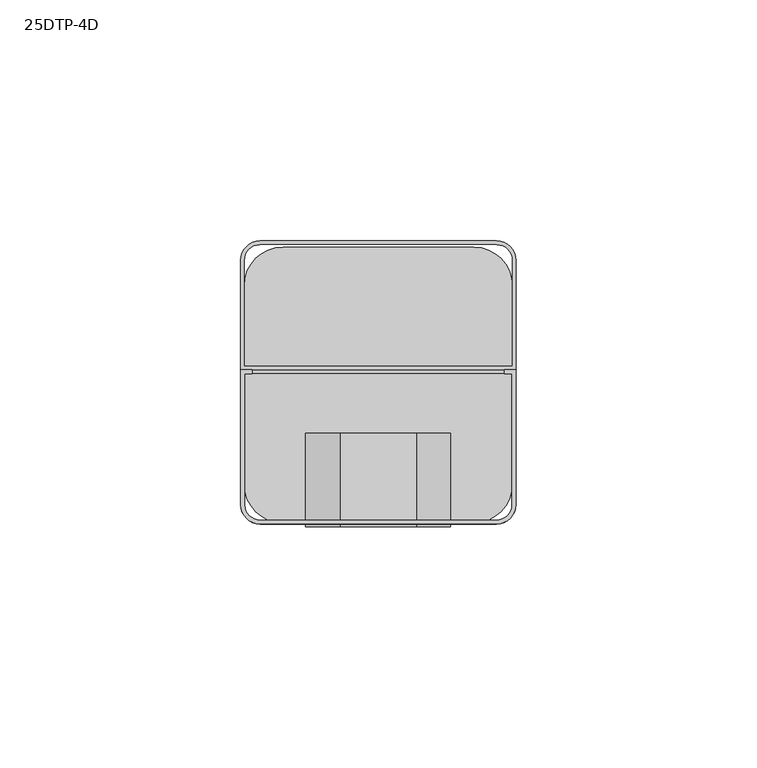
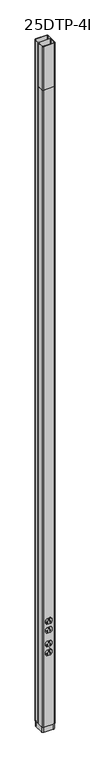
"""IFC4 building model written with IfcOpenShell, lengths in millimetres: proxy geometry, Vertical_Drop_Poles-Wiremold-Steel_Tele-Power_Pole : 25DTP-4D."""

from ifc_helpers import new_model, si_unit, point, frame, frame_2d, origin, origin_with_axes, place, context, project, spatial, polyline, circle_curve, trimmed, segment, composite_curve, outline, extrude, source, transform, mapped, element, save


def proxy_25dtp_4d_030f9c97(model_context):
    return source(origin(), model_context, "Body", "SweptSolid", [
        extrude(outline(composite_curve([segment(polyline([(28.575, 31.25), (28.575, 3.25)]), True, "CONTINUOUS"), segment(trimmed(circle_curve(frame_2d((24.575, 3.25)), 4.0), [point((28.575, 3.25))], [point((24.575, -0.75))], False, "CARTESIAN"), True, "CONTINUOUS"), segment(polyline([(24.575, -0.75), (-24.575, -0.75)]), True, "CONTINUOUS"), segment(trimmed(circle_curve(frame_2d((-24.575, 3.25)), 4.0), [point((-24.575, -0.75))], [point((-28.575, 3.25))], False, "CARTESIAN"), True, "CONTINUOUS"), segment(polyline([(-28.575, 3.25), (-28.575, 31.25), (-26.1875, 31.25), (-26.1875, 30.45), (-27.775, 30.45), (-27.775, 3.25)]), True, "CONTINUOUS"), segment(trimmed(circle_curve(frame_2d((-24.575, 3.25)), 3.2), [point((-27.775, 3.25))], [point((-24.575, 0.05))], True, "CARTESIAN"), True, "CONTINUOUS"), segment(polyline([(-24.575, 0.05), (24.575, 0.05)]), True, "CONTINUOUS"), segment(trimmed(circle_curve(frame_2d((24.575, 3.25)), 3.2), [point((24.575, 0.05))], [point((27.775, 3.25))], True, "CARTESIAN"), True, "CONTINUOUS"), segment(polyline([(27.775, 3.25), (27.775, 30.45), (26.1875, 30.45), (26.1875, 31.25), (28.575, 31.25)]), True, "CONTINUOUS")], self_intersect=False)), frame((0.0, 0.0, 2971.8), z_axis=(0.0, 0.0, 1.0), x_axis=(1.0, 0.0, 0.0)), (0.0, 0.0, 1.0), 203.2),
        extrude(outline(composite_curve([segment(trimmed(circle_curve(frame_2d((382.9265865, -1.3686678)), 13.5147302), [point((394.7420503, -7.9293651))], [point((382.9265865, -14.8833981))], False, "CARTESIAN"), True, "CONTINUOUS"), segment(polyline([(382.9265865, -14.8833981), (381.0801333, -14.8833981)]), True, "CONTINUOUS"), segment(trimmed(circle_curve(frame_2d((381.0801333, -0.8712751)), 14.0121229), [point((381.0801333, -14.8833981))], [point((369.2960251, -8.4524614))], False, "CARTESIAN"), True, "CONTINUOUS"), segment(polyline([(369.2960251, -8.4524614), (369.2960251, 8.3803404)]), True, "CONTINUOUS"), segment(trimmed(circle_curve(frame_2d((380.7601905, 0.7900089)), 13.7491898), [point((369.2960251, 8.3803404))], [point((380.7601905, 14.5391986))], False, "CARTESIAN"), True, "CONTINUOUS"), segment(polyline([(380.7601905, 14.5391986), (382.9712657, 14.5391986)]), True, "CONTINUOUS"), segment(trimmed(circle_curve(frame_2d((382.9712657, 0.7346993)), 13.8044993), [point((382.9712657, 14.5391986))], [point((394.7420503, 7.9466915))], False, "CARTESIAN"), True, "CONTINUOUS"), segment(polyline([(394.7420503, 7.9466915), (394.7420503, -7.9293651)]), True, "CONTINUOUS")], self_intersect=False), holes=[polyline([(381.1730138, -5.605934), (373.5125012, -5.605934), (373.5125012, -7.1952895), (376.6875012, -7.1952895), (376.6875012, -11.9577895), (378.2750012, -11.9577895), (378.2750012, -7.1952895), (381.1730138, -7.1952895), (381.1730138, -5.605934)]), polyline([(374.3062512, 5.29348), (380.3792638, 5.29348), (380.3792638, 6.8797105), (374.3062512, 6.8797105), (374.3062512, 5.29348)]), composite_curve([segment(polyline([(391.6167638, 2.240599), (388.4417638, 2.240599)]), True, "CONTINUOUS"), segment(trimmed(circle_curve(frame_2d((388.4417638, -0.140651)), 2.38125), [point((388.4417638, 2.240599))], [point((388.4417638, -2.521901))], True, "CARTESIAN"), True, "CONTINUOUS"), segment(polyline([(388.4417638, -2.521901), (391.6167638, -2.521901), (391.6167638, 2.240599)]), True, "CONTINUOUS")], self_intersect=False)]), frame((0.0, -0.8603814, 0.0), z_axis=(0.0, 1.0, 0.0), x_axis=(0.0, 0.0, 1.0)), (0.0, 0.0, 1.0), 19.3625),
        extrude(outline(composite_curve([segment(polyline([(353.4960251, 8.732199), (353.4960251, -8.7339979)]), True, "CONTINUOUS"), segment(trimmed(circle_curve(frame_2d((342.2124064, -1.5966371)), 13.3514783), [point((353.4960251, -8.7339979))], [point((342.2124064, -14.9481154))], False, "CARTESIAN"), True, "CONTINUOUS"), segment(polyline([(342.2124064, -14.9481154), (340.1003553, -14.9481154)]), True, "CONTINUOUS"), segment(trimmed(circle_curve(frame_2d((340.1003553, -1.1640637)), 13.7840517), [point((340.1003553, -14.9481154))], [point((328.05, -7.8565235))], False, "CARTESIAN"), True, "CONTINUOUS"), segment(polyline([(328.05, -7.8565235), (328.05, 7.778786)]), True, "CONTINUOUS"), segment(trimmed(circle_curve(frame_2d((340.0235306, 0.6795107)), 13.919955), [point((328.05, 7.778786))], [point((340.0235306, 14.5994656))], False, "CARTESIAN"), True, "CONTINUOUS"), segment(polyline([(340.0235306, 14.5994656), (342.2682468, 14.5994656)]), True, "CONTINUOUS"), segment(trimmed(circle_curve(frame_2d((342.2682468, 0.9229247)), 13.6765409), [point((342.2682468, 14.5994656))], [point((353.4960251, 8.732199))], False, "CARTESIAN"), True, "CONTINUOUS")], self_intersect=False), holes=[polyline([(333.4602261, 5.29348), (339.5332386, 5.29348), (339.5332386, 6.8797105), (333.4602261, 6.8797105), (333.4602261, 5.29348)]), composite_curve([segment(polyline([(350.4937512, 2.240599), (347.5957386, 2.240599)]), True, "CONTINUOUS"), segment(trimmed(circle_curve(frame_2d((347.5957386, -0.140651)), 2.38125), [point((347.5957386, 2.240599))], [point((347.5957386, -2.521901))], True, "CARTESIAN"), True, "CONTINUOUS"), segment(polyline([(347.5957386, -2.521901), (350.4937512, -2.521901), (350.4937512, 2.240599)]), True, "CONTINUOUS")], self_intersect=False), polyline([(340.3269886, -5.605934), (332.6664761, -5.605934), (332.6664761, -7.1952895), (335.6049004, -7.1952895), (335.6049004, -11.9577895), (337.1924004, -11.9577895), (337.1924004, -7.1952895), (340.3269886, -7.1952895), (340.3269886, -5.605934)])]), frame((0.0, -0.8603814, 0.0), z_axis=(0.0, 1.0, 0.0), x_axis=(0.0, 0.0, 1.0)), (0.0, 0.0, 1.0), 19.3625),
        extrude(outline(composite_curve([segment(trimmed(circle_curve(frame_2d((488.7029331, -1.1591271)), 13.933707), [point((500.85, -7.9853234))], [point((488.7029331, -15.092834))], False, "CARTESIAN"), True, "CONTINUOUS"), segment(polyline([(488.7029331, -15.092834), (486.7854081, -15.092834)]), True, "CONTINUOUS"), segment(trimmed(circle_curve(frame_2d((486.7854081, -0.9909304)), 14.1019036), [point((486.7854081, -15.092834))], [point((474.85, -8.5015708))], False, "CARTESIAN"), True, "CONTINUOUS"), segment(polyline([(474.85, -8.5015708), (474.85, 8.5041234)]), True, "CONTINUOUS"), segment(trimmed(circle_curve(frame_2d((486.6576313, 0.982166)), 14.0), [point((474.85, 8.5041234))], [point((486.6576313, 14.982166))], False, "CARTESIAN"), True, "CONTINUOUS"), segment(polyline([(486.6576313, 14.982166), (488.7451343, 14.982166)]), True, "CONTINUOUS"), segment(trimmed(circle_curve(frame_2d((488.7451343, 0.9958893)), 13.9862766), [point((488.7451343, 14.982166))], [point((500.85, 8.0021838))], False, "CARTESIAN"), True, "CONTINUOUS"), segment(polyline([(500.85, 8.0021838), (500.85, -7.9853234)]), True, "CONTINUOUS")], self_intersect=False), holes=[polyline([(486.9892021, -5.530934), (479.0517021, -5.530934), (479.0517021, -7.1202895), (486.9892021, -7.1202895), (486.9892021, -5.530934)]), polyline([(479.8454521, 5.29348), (486.1954521, 5.29348), (486.1954521, 6.8797105), (479.8454521, 6.8797105), (479.8454521, 5.29348)]), composite_curve([segment(polyline([(497.4329521, 2.240599), (494.2579521, 2.240599)]), True, "CONTINUOUS"), segment(trimmed(circle_curve(frame_2d((494.2579521, -0.140651)), 2.38125), [point((494.2579521, 2.240599))], [point((494.2579521, -2.521901))], True, "CARTESIAN"), True, "CONTINUOUS"), segment(polyline([(494.2579521, -2.521901), (497.4329521, -2.521901), (497.4329521, 2.240599)]), True, "CONTINUOUS")], self_intersect=False)]), frame((0.0, -0.8603814, 0.0), z_axis=(0.0, 1.0, 0.0), x_axis=(0.0, 0.0, 1.0)), (0.0, 0.0, 1.0), 19.3625),
        extrude(outline(composite_curve([segment(polyline([(459.05, 8.7098868), (459.05, -8.7111214)]), True, "CONTINUOUS"), segment(trimmed(circle_curve(frame_2d((447.3453879, -1.1683429)), 13.9244911), [point((459.05, -8.7111214))], [point((447.3453879, -15.092834))], False, "CARTESIAN"), True, "CONTINUOUS"), segment(polyline([(447.3453879, -15.092834), (445.4207127, -15.092834)]), True, "CONTINUOUS"), segment(trimmed(circle_curve(frame_2d((445.4207127, -0.9820385)), 14.1107955), [point((445.4207127, -15.092834))], [point((433.05, -7.7702649))], False, "CARTESIAN"), True, "CONTINUOUS"), segment(polyline([(433.05, -7.7702649), (433.05, 7.7817126)]), True, "CONTINUOUS"), segment(trimmed(circle_curve(frame_2d((445.293109, 0.9733088)), 14.0088572), [point((433.05, 7.7817126))], [point((445.293109, 14.982166))], False, "CARTESIAN"), True, "CONTINUOUS"), segment(polyline([(445.293109, 14.982166), (447.3875692, 14.982166)]), True, "CONTINUOUS"), segment(trimmed(circle_curve(frame_2d((447.3875692, 1.0036923)), 13.9784736), [point((447.3875692, 14.982166))], [point((459.05, 8.7098868))], False, "CARTESIAN"), True, "CONTINUOUS")], self_intersect=False), holes=[polyline([(445.5892021, -5.6947448), (437.6517021, -5.6947448), (437.6517021, -7.2841003), (445.5892021, -7.2841003), (445.5892021, -5.6947448)]), polyline([(438.4454521, 5.29348), (444.7954521, 5.29348), (444.7954521, 6.8797105), (438.4454521, 6.8797105), (438.4454521, 5.29348)]), composite_curve([segment(polyline([(456.0329521, 2.240599), (452.8579521, 2.240599)]), True, "CONTINUOUS"), segment(trimmed(circle_curve(frame_2d((452.8579521, -0.140651)), 2.38125), [point((452.8579521, 2.240599))], [point((452.8579521, -2.521901))], True, "CARTESIAN"), True, "CONTINUOUS"), segment(polyline([(452.8579521, -2.521901), (456.0329521, -2.521901), (456.0329521, 2.240599)]), True, "CONTINUOUS")], self_intersect=False)]), frame((0.0, -0.8603814, 0.0), z_axis=(0.0, 1.0, 0.0), x_axis=(0.0, 0.0, 1.0)), (0.0, 0.0, 1.0), 19.3625),
        extrude(outline(composite_curve([segment(trimmed(circle_curve(frame_2d((19.825, 49.2375)), 8.0), [point((19.825, 57.2375))], [point((27.825, 49.2375))], False, "CARTESIAN"), True, "CONTINUOUS"), segment(polyline([(27.825, 49.2375), (27.825, 8.0)]), True, "CONTINUOUS"), segment(trimmed(circle_curve(frame_2d((19.825, 8.0)), 8.0), [point((27.825, 8.0))], [point((19.825, 0.0))], False, "CARTESIAN"), True, "CONTINUOUS"), segment(polyline([(19.825, 0.0), (-19.825, 0.0)]), True, "CONTINUOUS"), segment(trimmed(circle_curve(frame_2d((-19.825, 8.0)), 8.0), [point((-19.825, 0.0))], [point((-27.825, 8.0))], False, "CARTESIAN"), True, "CONTINUOUS"), segment(polyline([(-27.825, 8.0), (-27.825, 49.2375)]), True, "CONTINUOUS"), segment(trimmed(circle_curve(frame_2d((-19.825, 49.2375)), 8.0), [point((-27.825, 49.2375))], [point((-19.825, 57.2375))], False, "CARTESIAN"), True, "CONTINUOUS"), segment(polyline([(-19.825, 57.2375), (19.825, 57.2375)]), True, "CONTINUOUS")], self_intersect=False)), frame((0.0, 0.0, -25.4), z_axis=(0.0, 0.0, 1.0), x_axis=(1.0, 0.0, 0.0)), (0.0, 0.0, 1.0), 25.4),
        extrude(outline(composite_curve([segment(trimmed(circle_curve(frame_2d((382.9267215, -1.3683703)), 13.514578), [point((394.7420503, -7.9289972))], [point((382.9267215, -14.8829484))], False, "CARTESIAN"), True, "CONTINUOUS"), segment(polyline([(382.9267215, -14.8829484), (381.1701673, -14.8829484)]), True, "CONTINUOUS"), segment(trimmed(circle_curve(frame_2d((381.1701673, -0.7955272)), 14.0874212), [point((381.1701673, -14.8829484))], [point((369.2960251, -8.3757767))], False, "CARTESIAN"), True, "CONTINUOUS"), segment(polyline([(369.2960251, -8.3757767), (369.2960251, 8.3803147)]), True, "CONTINUOUS"), segment(trimmed(circle_curve(frame_2d((380.7601645, 0.7899761)), 13.749172), [point((369.2960251, 8.3803147))], [point((380.7601645, 14.5391481))], False, "CARTESIAN"), True, "CONTINUOUS"), segment(polyline([(380.7601645, 14.5391481), (382.9712291, 14.5391481)]), True, "CONTINUOUS"), segment(trimmed(circle_curve(frame_2d((382.9712291, 0.7346672)), 13.8044809), [point((382.9712291, 14.5391481))], [point((394.7420503, 7.9465645))], False, "CARTESIAN"), True, "CONTINUOUS"), segment(polyline([(394.7420503, 7.9465645), (394.7420503, -7.9289972)]), True, "CONTINUOUS")], self_intersect=False), holes=[polyline([(381.1730138, -5.530934), (373.5125012, -5.530934), (373.5125012, -7.1202895), (381.1730138, -7.1202895), (381.1730138, -5.530934)]), polyline([(374.3062512, 5.29348), (380.3792638, 5.29348), (380.3792638, 6.8797105), (374.3062512, 6.8797105), (374.3062512, 5.29348)]), composite_curve([segment(polyline([(391.6167638, 2.240599), (388.4417638, 2.240599)]), True, "CONTINUOUS"), segment(trimmed(circle_curve(frame_2d((388.4417638, -0.140651)), 2.38125), [point((388.4417638, 2.240599))], [point((388.4417638, -2.521901))], True, "CARTESIAN"), True, "CONTINUOUS"), segment(polyline([(388.4417638, -2.521901), (391.6167638, -2.521901), (391.6167638, 2.240599)]), True, "CONTINUOUS")], self_intersect=False)]), frame((0.0, -0.8603814, 0.0), z_axis=(0.0, 1.0, 0.0), x_axis=(0.0, 0.0, 1.0)), (0.0, 0.0, 1.0), 19.3625),
        extrude(outline(composite_curve([segment(polyline([(353.4960251, 8.732199), (353.4960251, -8.7339979)]), True, "CONTINUOUS"), segment(trimmed(circle_curve(frame_2d((341.9368061, -1.0863882)), 13.8600678), [point((353.4960251, -8.7339979))], [point((341.9368061, -14.946456))], False, "CARTESIAN"), True, "CONTINUOUS"), segment(polyline([(341.9368061, -14.946456), (340.151998, -14.946456)]), True, "CONTINUOUS"), segment(trimmed(circle_curve(frame_2d((340.151998, -1.1565771)), 13.7898789), [point((340.151998, -14.946456))], [point((328.05, -7.7673565))], False, "CARTESIAN"), True, "CONTINUOUS"), segment(polyline([(328.05, -7.7673565), (328.05, 7.7787932)]), True, "CONTINUOUS"), segment(trimmed(circle_curve(frame_2d((340.0358326, 0.6795122)), 13.930541), [point((328.05, 7.7787932))], [point((340.0358326, 14.6100532))], False, "CARTESIAN"), True, "CONTINUOUS"), segment(polyline([(340.0358326, 14.6100532), (342.2553533, 14.6100532)]), True, "CONTINUOUS"), segment(trimmed(circle_curve(frame_2d((342.2553533, 0.9229263)), 13.6871269), [point((342.2553533, 14.6100532))], [point((353.4960251, 8.732199))], False, "CARTESIAN"), True, "CONTINUOUS")], self_intersect=False), holes=[polyline([(340.3269886, -5.6947448), (332.6664761, -5.6947448), (332.6664761, -7.2841003), (340.3269886, -7.2841003), (340.3269886, -5.6947448)]), polyline([(333.4602261, 5.29348), (339.5332386, 5.29348), (339.5332386, 6.8797105), (333.4602261, 6.8797105), (333.4602261, 5.29348)]), composite_curve([segment(polyline([(350.4937512, 2.240599), (347.5957386, 2.240599)]), True, "CONTINUOUS"), segment(trimmed(circle_curve(frame_2d((347.5957386, -0.140651)), 2.38125), [point((347.5957386, 2.240599))], [point((347.5957386, -2.521901))], True, "CARTESIAN"), True, "CONTINUOUS"), segment(polyline([(347.5957386, -2.521901), (350.4937512, -2.521901), (350.4937512, 2.240599)]), True, "CONTINUOUS")], self_intersect=False)]), frame((0.0, -0.8603814, 0.0), z_axis=(0.0, 1.0, 0.0), x_axis=(0.0, 0.0, 1.0)), (0.0, 0.0, 1.0), 19.3625),
        extrude(outline(composite_curve([segment(trimmed(circle_curve(frame_2d((24.575, 53.9875)), 4.0), [point((24.575, 57.9875))], [point((28.575, 53.9875))], False, "CARTESIAN"), True, "CONTINUOUS"), segment(polyline([(28.575, 53.9875), (28.575, 31.25), (-28.575, 31.25), (-28.575, 53.9875)]), True, "CONTINUOUS"), segment(trimmed(circle_curve(frame_2d((-24.575, 53.9875)), 4.0), [point((-28.575, 53.9875))], [point((-24.575, 57.9875))], False, "CARTESIAN"), True, "CONTINUOUS"), segment(polyline([(-24.575, 57.9875), (24.575, 57.9875)]), True, "CONTINUOUS")], self_intersect=False), holes=[composite_curve([segment(polyline([(27.775, 32.05), (27.775, 53.9875)]), True, "CONTINUOUS"), segment(trimmed(circle_curve(frame_2d((24.575, 53.9875)), 3.2), [point((27.775, 53.9875))], [point((24.575, 57.1875))], True, "CARTESIAN"), True, "CONTINUOUS"), segment(polyline([(24.575, 57.1875), (-24.575, 57.1875)]), True, "CONTINUOUS"), segment(trimmed(circle_curve(frame_2d((-24.575, 53.9875)), 3.2), [point((-24.575, 57.1875))], [point((-27.775, 53.9875))], True, "CARTESIAN"), True, "CONTINUOUS"), segment(polyline([(-27.775, 53.9875), (-27.775, 32.05), (27.775, 32.05)]), True, "CONTINUOUS")], self_intersect=False)]), origin_with_axes(), (0.0, 0.0, 1.0), 3175.0),
        extrude(outline(composite_curve([segment(polyline([(28.575, 31.25), (28.575, 3.25)]), True, "CONTINUOUS"), segment(trimmed(circle_curve(frame_2d((24.575, 3.25)), 4.0), [point((28.575, 3.25))], [point((24.575, -0.75))], False, "CARTESIAN"), True, "CONTINUOUS"), segment(polyline([(24.575, -0.75), (-24.575, -0.75)]), True, "CONTINUOUS"), segment(trimmed(circle_curve(frame_2d((-24.575, 3.25)), 4.0), [point((-24.575, -0.75))], [point((-28.575, 3.25))], False, "CARTESIAN"), True, "CONTINUOUS"), segment(polyline([(-28.575, 3.25), (-28.575, 31.25), (28.575, 31.25)]), True, "CONTINUOUS")], self_intersect=False), holes=[composite_curve([segment(polyline([(-27.775, 30.45), (-27.775, 3.25)]), True, "CONTINUOUS"), segment(trimmed(circle_curve(frame_2d((-24.575, 3.25)), 3.2), [point((-27.775, 3.25))], [point((-24.575, 0.05))], True, "CARTESIAN"), True, "CONTINUOUS"), segment(polyline([(-24.575, 0.05), (24.575, 0.05)]), True, "CONTINUOUS"), segment(trimmed(circle_curve(frame_2d((24.575, 3.25)), 3.2), [point((24.575, 0.05))], [point((27.775, 3.25))], True, "CARTESIAN"), True, "CONTINUOUS"), segment(polyline([(27.775, 3.25), (27.775, 30.45), (-27.775, 30.45)]), True, "CONTINUOUS")], self_intersect=False)]), origin_with_axes(), (0.0, 0.0, 1.0), 2971.8),
    ])


if __name__ == "__main__":
    model = new_model("IFC4")
    model_context = context("Model", 3, world=origin())
    ifc_project = project(units=[si_unit("LENGTHUNIT", "METRE", prefix="MILLI")], contexts=[model_context])
    site = spatial("IfcSite", under=ifc_project)
    building = spatial("IfcBuilding", under=site)
    placement = place(None, origin())
    proxy_25dtp_4d_shape = proxy_25dtp_4d_030f9c97(model_context)
    element("IfcBuildingElementProxy", 1, Name="Vertical_Drop_Poles-Wiremold-Steel_Tele-Power_Pole : 25DTP-4D", ObjectType="Vertical_Drop_Poles-Wiremold-Steel_Tele-Power_Pole : 25DTP-4D", at=placement, inside=building, context=model_context, shape_type="MappedRepresentation", body=[
        mapped(proxy_25dtp_4d_shape, transform((0.0, 0.0, 0.0), x_axis=(1.0, 0.0, 0.0), y_axis=(0.0, 1.0, 0.0), z_axis=(0.0, 0.0, 1.0))),
    ])
    save(model, "model.ifc")
